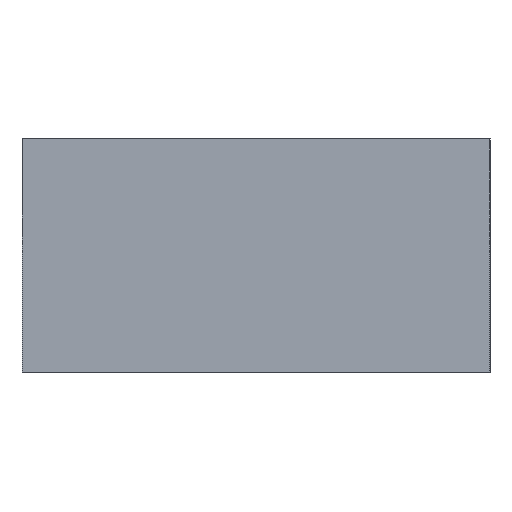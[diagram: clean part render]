
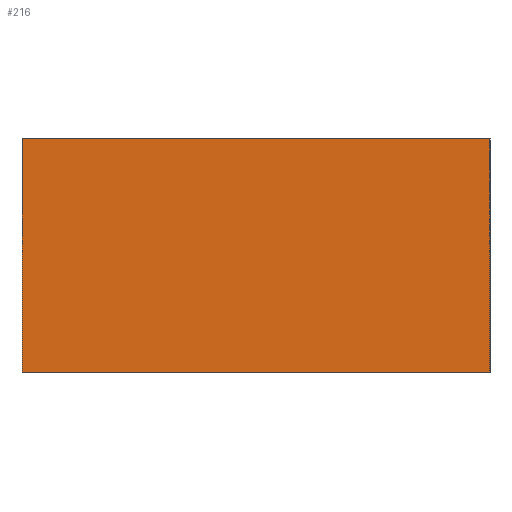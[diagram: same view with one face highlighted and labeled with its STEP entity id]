
A CAD part, left-side view. The second image highlights one B-rep face of the part: STEP entity #216.
In plain terms, the highlighted planar face has unit normal (-1, 0, 0).
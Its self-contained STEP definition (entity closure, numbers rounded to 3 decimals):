
#216=ADVANCED_FACE('',(#647),#649,.T.);
#647=FACE_BOUND('',#648,.T.);
#648=EDGE_LOOP('',(#974,#975,#976,#977));
#649=PLANE('',#650);
#650=AXIS2_PLACEMENT_3D('',#651,#652,#653);
#651=CARTESIAN_POINT('',(-0.8,-0.4,0.));
#652=DIRECTION('',(-1.,0.,0.));
#653=DIRECTION('',(0.,0.,1.));
#974=ORIENTED_EDGE('',*,*,#1180,.T.);
#975=ORIENTED_EDGE('',*,*,#1190,.T.);
#976=ORIENTED_EDGE('',*,*,#1186,.F.);
#977=ORIENTED_EDGE('',*,*,#1191,.F.);
#1180=EDGE_CURVE('',#1321,#1319,#1322,.T.);
#1186=EDGE_CURVE('',#1329,#1331,#1332,.T.);
#1190=EDGE_CURVE('',#1319,#1331,#1337,.T.);
#1191=EDGE_CURVE('',#1321,#1329,#1338,.T.);
#1319=VERTEX_POINT('',#1570);
#1321=VERTEX_POINT('',#1574);
#1322=LINE('',#1575,#1576);
#1329=VERTEX_POINT('',#1592);
#1331=VERTEX_POINT('',#1596);
#1332=LINE('',#1597,#1598);
#1337=LINE('',#1610,#1611);
#1338=LINE('',#1613,#1614);
#1570=CARTESIAN_POINT('',(-0.8,-0.4,0.4));
#1574=CARTESIAN_POINT('',(-0.8,-0.4,0.));
#1575=CARTESIAN_POINT('',(-0.8,-0.4,0.));
#1576=VECTOR('',#1577,1.);
#1577=DIRECTION('',(0.,0.,1.));
#1592=CARTESIAN_POINT('',(-0.8,0.4,0.));
#1596=CARTESIAN_POINT('',(-0.8,0.4,0.4));
#1597=CARTESIAN_POINT('',(-0.8,0.4,0.));
#1598=VECTOR('',#1599,1.);
#1599=DIRECTION('',(0.,0.,1.));
#1610=CARTESIAN_POINT('',(-0.8,-0.4,0.4));
#1611=VECTOR('',#1612,1.);
#1612=DIRECTION('',(0.,1.,0.));
#1613=CARTESIAN_POINT('',(-0.8,-0.4,0.));
#1614=VECTOR('',#1615,1.);
#1615=DIRECTION('',(0.,1.,0.));
